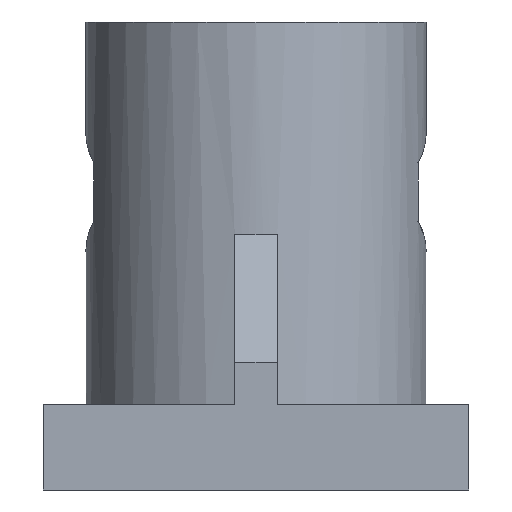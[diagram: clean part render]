
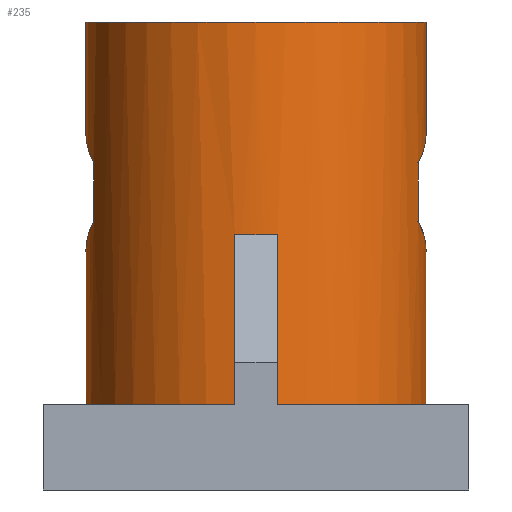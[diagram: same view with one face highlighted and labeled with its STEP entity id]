
A CAD part, left-side view. The second image highlights one B-rep face of the part: STEP entity #235.
In plain terms, the highlighted cylindrical face has radius 40 mm (diameter 80 mm), a full revolution.
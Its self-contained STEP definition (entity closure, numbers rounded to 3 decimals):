
#27=CARTESIAN_POINT('',(0.,0.,110.));
#28=DIRECTION('',(0.,0.,-1.));
#29=DIRECTION('',(-1.,0.,0.));
#30=AXIS2_PLACEMENT_3D('',#27,#28,#29);
#31=CYLINDRICAL_SURFACE('',#30,40.);
#32=CARTESIAN_POINT('',(-40.,0.,60.));
#33=VERTEX_POINT('',#32);
#34=CARTESIAN_POINT('',(-40.,0.,110.));
#35=VERTEX_POINT('',#34);
#36=CARTESIAN_POINT('',(-40.,0.,60.));
#37=DIRECTION('',(-0.,-0.,1.));
#38=VECTOR('',#37,50.);
#39=LINE('',#36,#38);
#40=EDGE_CURVE('',#33,#35,#39,.T.);
#41=ORIENTED_EDGE('',*,*,#40,.T.);
#42=CARTESIAN_POINT('',(0.,0.,110.));
#43=DIRECTION('',(0.,0.,1.));
#44=DIRECTION('',(-1.,-0.,0.));
#45=AXIS2_PLACEMENT_3D('',#42,#43,#44);
#46=CIRCLE('',#45,40.);
#47=EDGE_CURVE('',#35,#35,#46,.T.);
#48=ORIENTED_EDGE('',*,*,#47,.F.);
#49=ORIENTED_EDGE('',*,*,#40,.F.);
#50=CARTESIAN_POINT('',(-39.686,-5.,60.));
#51=VERTEX_POINT('',#50);
#52=CARTESIAN_POINT('',(0.,0.,60.));
#53=DIRECTION('',(-0.,-0.,-1.));
#54=DIRECTION('',(1.,0.,-0.));
#55=AXIS2_PLACEMENT_3D('',#52,#53,#54);
#56=CIRCLE('',#55,40.);
#57=EDGE_CURVE('',#51,#33,#56,.T.);
#58=ORIENTED_EDGE('',*,*,#57,.F.);
#59=CARTESIAN_POINT('',(-39.686,-5.,20.));
#60=VERTEX_POINT('',#59);
#61=CARTESIAN_POINT('',(-39.686,-5.,20.));
#62=DIRECTION('',(-0.,-0.,1.));
#63=VECTOR('',#62,40.);
#64=LINE('',#61,#63);
#65=EDGE_CURVE('',#60,#51,#64,.T.);
#66=ORIENTED_EDGE('',*,*,#65,.F.);
#67=CARTESIAN_POINT('',(39.686,-5.,20.));
#68=VERTEX_POINT('',#67);
#69=CARTESIAN_POINT('',(0.,0.,20.));
#70=DIRECTION('',(0.,0.,1.));
#71=DIRECTION('',(-1.,-0.,0.));
#72=AXIS2_PLACEMENT_3D('',#69,#70,#71);
#73=CIRCLE('',#72,40.);
#74=EDGE_CURVE('',#60,#68,#73,.T.);
#75=ORIENTED_EDGE('',*,*,#74,.T.);
#76=CARTESIAN_POINT('',(39.686,-5.,60.));
#77=VERTEX_POINT('',#76);
#78=CARTESIAN_POINT('',(39.686,-5.,60.));
#79=DIRECTION('',(0.,0.,-1.));
#80=VECTOR('',#79,40.);
#81=LINE('',#78,#80);
#82=EDGE_CURVE('',#77,#68,#81,.T.);
#83=ORIENTED_EDGE('',*,*,#82,.F.);
#84=CARTESIAN_POINT('',(39.686,5.,60.));
#85=VERTEX_POINT('',#84);
#86=CARTESIAN_POINT('',(0.,0.,60.));
#87=DIRECTION('',(-0.,-0.,1.));
#88=DIRECTION('',(-1.,0.,0.));
#89=AXIS2_PLACEMENT_3D('',#86,#87,#88);
#90=CIRCLE('',#89,40.);
#91=EDGE_CURVE('',#77,#85,#90,.T.);
#92=ORIENTED_EDGE('',*,*,#91,.T.);
#93=CARTESIAN_POINT('',(39.686,5.,20.));
#94=VERTEX_POINT('',#93);
#95=CARTESIAN_POINT('',(39.686,5.,60.));
#96=DIRECTION('',(0.,0.,-1.));
#97=VECTOR('',#96,40.);
#98=LINE('',#95,#97);
#99=EDGE_CURVE('',#85,#94,#98,.T.);
#100=ORIENTED_EDGE('',*,*,#99,.T.);
#101=CARTESIAN_POINT('',(-39.686,5.,20.));
#102=VERTEX_POINT('',#101);
#103=CARTESIAN_POINT('',(0.,0.,20.));
#104=DIRECTION('',(0.,0.,1.));
#105=DIRECTION('',(-1.,-0.,0.));
#106=AXIS2_PLACEMENT_3D('',#103,#104,#105);
#107=CIRCLE('',#106,40.);
#108=EDGE_CURVE('',#94,#102,#107,.T.);
#109=ORIENTED_EDGE('',*,*,#108,.T.);
#110=CARTESIAN_POINT('',(-39.686,5.,60.));
#111=VERTEX_POINT('',#110);
#112=CARTESIAN_POINT('',(-39.686,5.,20.));
#113=DIRECTION('',(-0.,-0.,1.));
#114=VECTOR('',#113,40.);
#115=LINE('',#112,#114);
#116=EDGE_CURVE('',#102,#111,#115,.T.);
#117=ORIENTED_EDGE('',*,*,#116,.T.);
#118=CARTESIAN_POINT('',(0.,0.,60.));
#119=DIRECTION('',(-0.,-0.,-1.));
#120=DIRECTION('',(1.,0.,-0.));
#121=AXIS2_PLACEMENT_3D('',#118,#119,#120);
#122=CIRCLE('',#121,40.);
#123=EDGE_CURVE('',#33,#111,#122,.T.);
#124=ORIENTED_EDGE('',*,*,#123,.F.);
#125=EDGE_LOOP('',(#41,#48,#49,#58,#66,#75,#83,#92,#100,#109,#117,#124));
#126=FACE_BOUND('',#125,.T.);
#127=CARTESIAN_POINT('',(0.,-40.,83.856));
#128=VERTEX_POINT('',#127);
#129=CARTESIAN_POINT('',(-12.,-38.158,76.928));
#130=VERTEX_POINT('',#129);
#131=CARTESIAN_POINT('',(0.,0.,83.856));
#132=DIRECTION('',(0.5,0.,-0.866));
#133=DIRECTION('',(-0.866,0.,-0.5));
#134=AXIS2_PLACEMENT_3D('',#131,#132,#133);
#135=ELLIPSE('',#134,46.188,40.);
#136=EDGE_CURVE('',#128,#130,#135,.T.);
#137=ORIENTED_EDGE('',*,*,#136,.F.);
#138=CARTESIAN_POINT('',(12.,-38.158,76.928));
#139=VERTEX_POINT('',#138);
#140=CARTESIAN_POINT('',(0.,0.,83.856));
#141=DIRECTION('',(-0.5,0.,-0.866));
#142=DIRECTION('',(0.866,0.,-0.5));
#143=AXIS2_PLACEMENT_3D('',#140,#141,#142);
#144=ELLIPSE('',#143,46.188,40.);
#145=EDGE_CURVE('',#139,#128,#144,.T.);
#146=ORIENTED_EDGE('',*,*,#145,.F.);
#147=CARTESIAN_POINT('',(12.,-38.158,63.072));
#148=VERTEX_POINT('',#147);
#149=CARTESIAN_POINT('',(12.,-38.158,63.072));
#150=DIRECTION('',(-0.,-0.,1.));
#151=VECTOR('',#150,13.856);
#152=LINE('',#149,#151);
#153=EDGE_CURVE('',#148,#139,#152,.T.);
#154=ORIENTED_EDGE('',*,*,#153,.F.);
#155=CARTESIAN_POINT('',(0.,-40.,56.144));
#156=VERTEX_POINT('',#155);
#157=CARTESIAN_POINT('',(0.,0.,56.144));
#158=DIRECTION('',(-0.5,0.,0.866));
#159=DIRECTION('',(-0.866,0.,-0.5));
#160=AXIS2_PLACEMENT_3D('',#157,#158,#159);
#161=ELLIPSE('',#160,46.188,40.);
#162=EDGE_CURVE('',#156,#148,#161,.T.);
#163=ORIENTED_EDGE('',*,*,#162,.F.);
#164=CARTESIAN_POINT('',(-12.,-38.158,63.072));
#165=VERTEX_POINT('',#164);
#166=CARTESIAN_POINT('',(0.,0.,56.144));
#167=DIRECTION('',(0.5,0.,0.866));
#168=DIRECTION('',(0.866,0.,-0.5));
#169=AXIS2_PLACEMENT_3D('',#166,#167,#168);
#170=ELLIPSE('',#169,46.188,40.);
#171=EDGE_CURVE('',#165,#156,#170,.T.);
#172=ORIENTED_EDGE('',*,*,#171,.F.);
#173=CARTESIAN_POINT('',(-12.,-38.158,76.928));
#174=DIRECTION('',(0.,0.,-1.));
#175=VECTOR('',#174,13.856);
#176=LINE('',#173,#175);
#177=EDGE_CURVE('',#130,#165,#176,.T.);
#178=ORIENTED_EDGE('',*,*,#177,.F.);
#179=EDGE_LOOP('',(#137,#146,#154,#163,#172,#178));
#180=FACE_BOUND('',#179,.T.);
#181=CARTESIAN_POINT('',(12.,38.158,76.928));
#182=VERTEX_POINT('',#181);
#183=CARTESIAN_POINT('',(12.,38.158,63.072));
#184=VERTEX_POINT('',#183);
#185=CARTESIAN_POINT('',(12.,38.158,76.928));
#186=DIRECTION('',(0.,0.,-1.));
#187=VECTOR('',#186,13.856);
#188=LINE('',#185,#187);
#189=EDGE_CURVE('',#182,#184,#188,.T.);
#190=ORIENTED_EDGE('',*,*,#189,.F.);
#191=CARTESIAN_POINT('',(0.,40.,83.856));
#192=VERTEX_POINT('',#191);
#193=CARTESIAN_POINT('',(0.,0.,83.856));
#194=DIRECTION('',(-0.5,0.,-0.866));
#195=DIRECTION('',(0.866,0.,-0.5));
#196=AXIS2_PLACEMENT_3D('',#193,#194,#195);
#197=ELLIPSE('',#196,46.188,40.);
#198=EDGE_CURVE('',#192,#182,#197,.T.);
#199=ORIENTED_EDGE('',*,*,#198,.F.);
#200=CARTESIAN_POINT('',(-12.,38.158,76.928));
#201=VERTEX_POINT('',#200);
#202=CARTESIAN_POINT('',(0.,0.,83.856));
#203=DIRECTION('',(0.5,0.,-0.866));
#204=DIRECTION('',(-0.866,0.,-0.5));
#205=AXIS2_PLACEMENT_3D('',#202,#203,#204);
#206=ELLIPSE('',#205,46.188,40.);
#207=EDGE_CURVE('',#201,#192,#206,.T.);
#208=ORIENTED_EDGE('',*,*,#207,.F.);
#209=CARTESIAN_POINT('',(-12.,38.158,63.072));
#210=VERTEX_POINT('',#209);
#211=CARTESIAN_POINT('',(-12.,38.158,63.072));
#212=DIRECTION('',(-0.,-0.,1.));
#213=VECTOR('',#212,13.856);
#214=LINE('',#211,#213);
#215=EDGE_CURVE('',#210,#201,#214,.T.);
#216=ORIENTED_EDGE('',*,*,#215,.F.);
#217=CARTESIAN_POINT('',(0.,40.,56.144));
#218=VERTEX_POINT('',#217);
#219=CARTESIAN_POINT('',(0.,0.,56.144));
#220=DIRECTION('',(0.5,0.,0.866));
#221=DIRECTION('',(0.866,0.,-0.5));
#222=AXIS2_PLACEMENT_3D('',#219,#220,#221);
#223=ELLIPSE('',#222,46.188,40.);
#224=EDGE_CURVE('',#218,#210,#223,.T.);
#225=ORIENTED_EDGE('',*,*,#224,.F.);
#226=CARTESIAN_POINT('',(0.,0.,56.144));
#227=DIRECTION('',(-0.5,0.,0.866));
#228=DIRECTION('',(-0.866,0.,-0.5));
#229=AXIS2_PLACEMENT_3D('',#226,#227,#228);
#230=ELLIPSE('',#229,46.188,40.);
#231=EDGE_CURVE('',#184,#218,#230,.T.);
#232=ORIENTED_EDGE('',*,*,#231,.F.);
#233=EDGE_LOOP('',(#190,#199,#208,#216,#225,#232));
#234=FACE_BOUND('',#233,.T.);
#235=ADVANCED_FACE('',(#126,#180,#234),#31,.T.);
